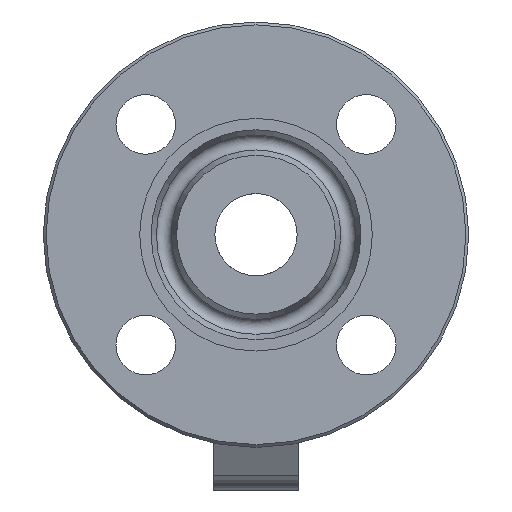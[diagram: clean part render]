
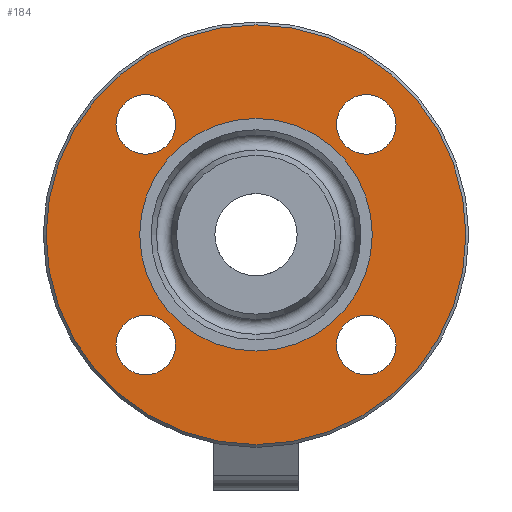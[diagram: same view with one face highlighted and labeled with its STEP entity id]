
A CAD part, left-side view. The second image highlights one B-rep face of the part: STEP entity #184.
In plain terms, the highlighted planar face has unit normal (-1, 0, 0).
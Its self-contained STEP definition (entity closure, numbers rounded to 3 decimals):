
#184=ADVANCED_FACE('',(#1441,#1443,#1445,#1447,#1449,#1451),#1453,.T.);
#1441=FACE_BOUND('',#1442,.T.);
#1442=EDGE_LOOP('',(#2339));
#1443=FACE_BOUND('',#1444,.T.);
#1444=EDGE_LOOP('',(#2340));
#1445=FACE_BOUND('',#1446,.T.);
#1446=EDGE_LOOP('',(#2341));
#1447=FACE_BOUND('',#1448,.T.);
#1448=EDGE_LOOP('',(#2342));
#1449=FACE_BOUND('',#1450,.T.);
#1450=EDGE_LOOP('',(#2343));
#1451=FACE_OUTER_BOUND('',#1452,.T.);
#1452=EDGE_LOOP('',(#2344));
#1453=PLANE('',#1454);
#1454=AXIS2_PLACEMENT_3D('',#1455,#1456,#1457);
#1455=CARTESIAN_POINT('',(-68.,0.,0.));
#1456=DIRECTION('',(-1.,0.,0.));
#1457=DIRECTION('',(0.,-1.,0.));
#2339=ORIENTED_EDGE('',*,*,#3075,.T.);
#2340=ORIENTED_EDGE('',*,*,#3076,.T.);
#2341=ORIENTED_EDGE('',*,*,#3078,.T.);
#2342=ORIENTED_EDGE('',*,*,#3080,.T.);
#2343=ORIENTED_EDGE('',*,*,#3102,.T.);
#2344=ORIENTED_EDGE('',*,*,#3103,.T.);
#3075=EDGE_CURVE('',#3490,#3490,#3492,.T.);
#3076=EDGE_CURVE('',#3493,#3493,#3494,.T.);
#3078=EDGE_CURVE('',#3496,#3496,#3497,.T.);
#3080=EDGE_CURVE('',#3499,#3499,#3500,.T.);
#3102=EDGE_CURVE('',#3530,#3530,#3531,.T.);
#3103=EDGE_CURVE('',#3532,#3532,#3533,.T.);
#3490=VERTEX_POINT('',#4808);
#3492=CIRCLE('',#4812,10.5);
#3493=VERTEX_POINT('',#4816);
#3494=CIRCLE('',#4817,10.5);
#3496=VERTEX_POINT('',#4824);
#3497=CIRCLE('',#4825,10.5);
#3499=VERTEX_POINT('',#4832);
#3500=CIRCLE('',#4833,10.5);
#3530=VERTEX_POINT('',#4912);
#3531=CIRCLE('',#4913,41.);
#3532=VERTEX_POINT('',#4917);
#3533=CIRCLE('',#4918,74.);
#4808=CARTESIAN_POINT('',(-68.,38.891,-49.391));
#4812=AXIS2_PLACEMENT_3D('',#4813,#4814,#4815);
#4813=CARTESIAN_POINT('',(-68.,38.891,-38.891));
#4814=DIRECTION('',(1.,-0.,-0.));
#4815=DIRECTION('',(0.,0.,-1.));
#4816=CARTESIAN_POINT('',(-68.,49.391,38.891));
#4817=AXIS2_PLACEMENT_3D('',#4818,#4819,#4820);
#4818=CARTESIAN_POINT('',(-68.,38.891,38.891));
#4819=DIRECTION('',(1.,-0.,-0.));
#4820=DIRECTION('',(0.,1.,0.));
#4824=CARTESIAN_POINT('',(-68.,-38.891,49.391));
#4825=AXIS2_PLACEMENT_3D('',#4826,#4827,#4828);
#4826=CARTESIAN_POINT('',(-68.,-38.891,38.891));
#4827=DIRECTION('',(1.,-0.,-0.));
#4828=DIRECTION('',(0.,0.,1.));
#4832=CARTESIAN_POINT('',(-68.,-49.391,-38.891));
#4833=AXIS2_PLACEMENT_3D('',#4834,#4835,#4836);
#4834=CARTESIAN_POINT('',(-68.,-38.891,-38.891));
#4835=DIRECTION('',(1.,-0.,-0.));
#4836=DIRECTION('',(0.,-1.,0.));
#4912=CARTESIAN_POINT('',(-68.,41.,0.));
#4913=AXIS2_PLACEMENT_3D('',#4914,#4915,#4916);
#4914=CARTESIAN_POINT('',(-68.,0.,0.));
#4915=DIRECTION('',(1.,-0.,-0.));
#4916=DIRECTION('',(0.,1.,0.));
#4917=CARTESIAN_POINT('',(-68.,-74.,0.));
#4918=AXIS2_PLACEMENT_3D('',#4919,#4920,#4921);
#4919=CARTESIAN_POINT('',(-68.,0.,0.));
#4920=DIRECTION('',(-1.,0.,0.));
#4921=DIRECTION('',(0.,-1.,0.));
